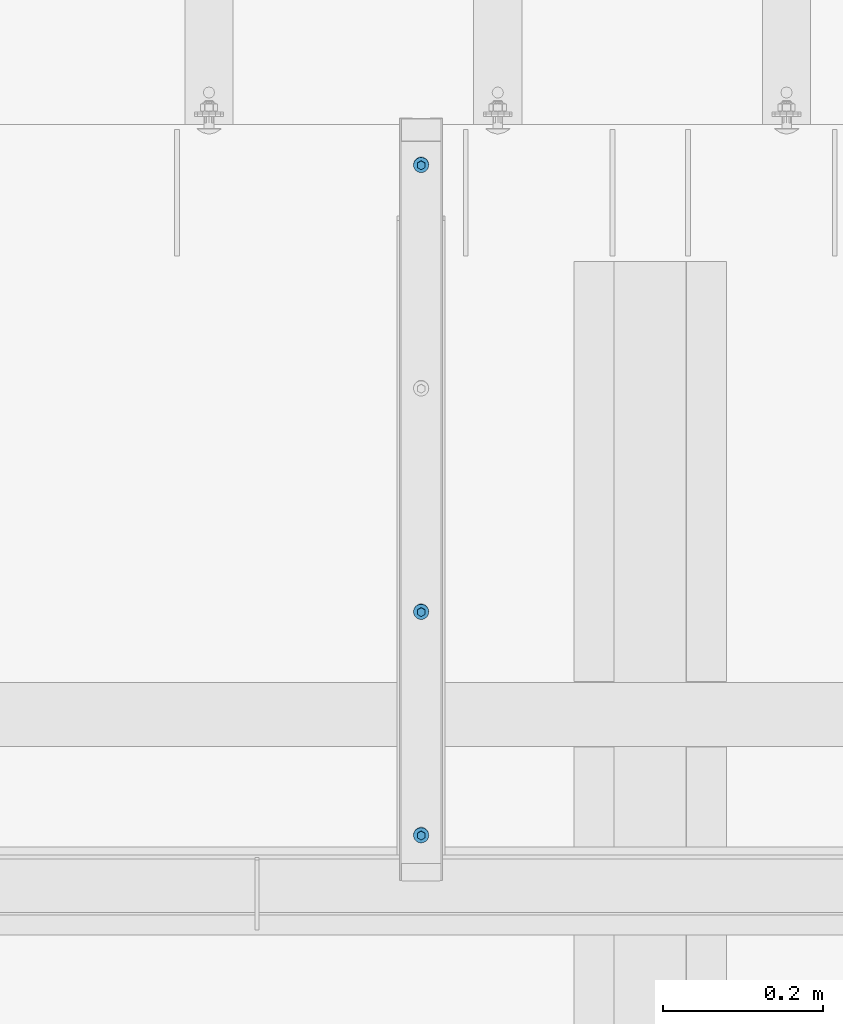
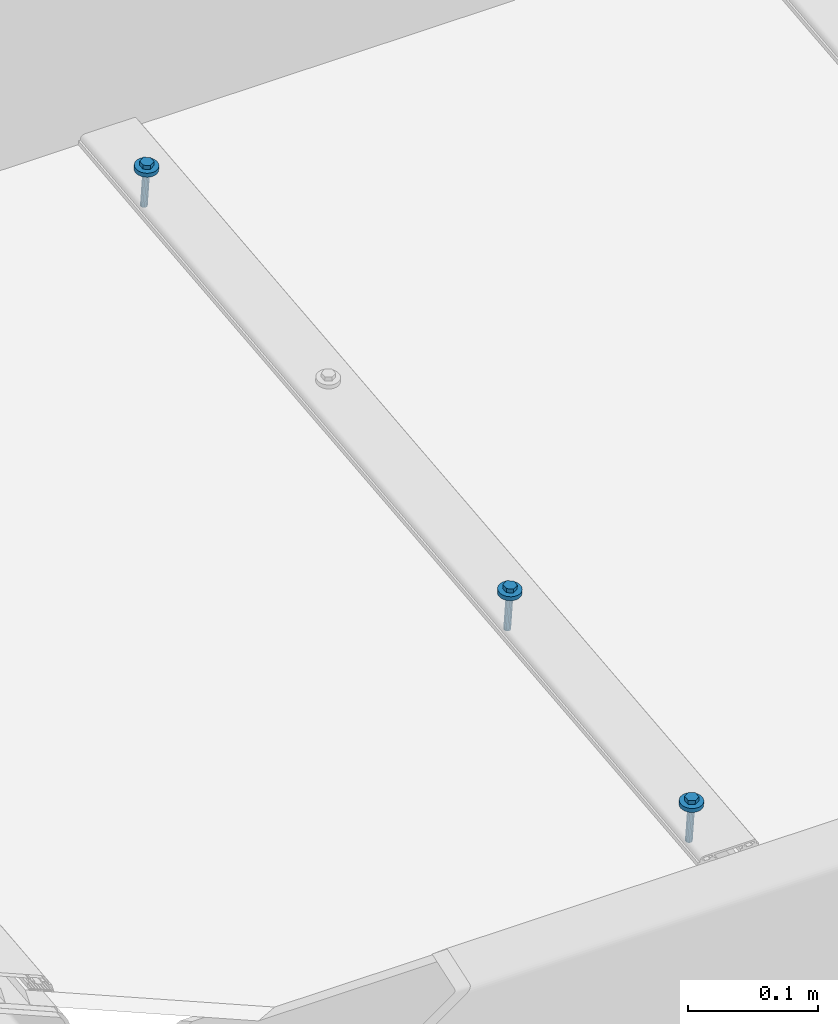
# One storey, part 59 of 116: 3 mechanical fasteners.
"""IFC2X3 building model written with IfcOpenShell, lengths in millimetres."""

from ifc_helpers import new_model, entity, si_unit, converted_unit, origin_with_axes, place, context, project, spatial, faceted_brep, element, save


model = new_model("IFC2X3")

# Units and contexts
model_context = context("Model", 3, precision=1e-09, world=origin_with_axes())
ifc_project = project(units=[si_unit("LENGTHUNIT", "METRE", prefix="MILLI"), si_unit("AREAUNIT", "SQUARE_METRE"), si_unit("VOLUMEUNIT", "CUBIC_METRE"), converted_unit("PLANEANGLEUNIT", "DEGREE", entity("IfcPlaneAngleMeasure", 0.01745329), si_unit("PLANEANGLEUNIT", "RADIAN"), dimensions=[0, 0, 0, 0, 0, 0, 0])], contexts=[model_context])

# Site, building, storey
site_placement = place(None, origin_with_axes())
site = spatial("IfcSite", under=ifc_project, at=site_placement, Name="Site", CompositionType="ELEMENT")
building_placement = place(site_placement, origin_with_axes())
building = spatial("IfcBuilding", under=site, at=building_placement, Name="Struktur 1", CompositionType="ELEMENT")
storey_placement = place(building_placement, origin_with_axes())
storey = spatial("IfcBuildingStorey", under=building, at=storey_placement, Name="Default Storey", CompositionType="ELEMENT", Elevation=0.0)

# Mechanical fasteners
mechanical_fastener_1_placement = place(None, origin_with_axes())
element("IfcMechanicalFastener", 1, at=mechanical_fastener_1_placement, inside=storey, ObjectType="-", NominalDiameter=6.0, NominalLength=40.0, context=model_context, shape_type="Brep", body=[
    faceted_brep([(56457.049134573, 11415.085912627, 2556.372412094), (56457.049134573, 11415.50402648, 2552.394324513), (56457.231674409, 11413.66082131, 2552.200595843), (56457.231674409, 11413.242707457, 2556.178683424), (56457.772279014, 11411.888449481, 2552.014312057), (56457.772279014, 11411.470335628, 2555.992399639), (56458.650173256, 11410.255022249, 2551.842631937), (56458.650173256, 11409.836908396, 2555.820719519), (56459.831620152, 11408.823311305, 2551.692153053), (56459.831620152, 11408.405197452, 2555.670240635), (56461.27121736, 11407.648336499, 2551.568658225), (56461.27121736, 11407.230222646, 2555.546745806), (56462.913641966, 11406.775251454, 2551.476893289), (56462.913641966, 11406.357137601, 2555.45498087), (56464.695776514, 11406.237608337, 2551.42038472), (56464.695776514, 11405.819494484, 2555.398472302), (56466.549134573, 11406.056068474, 2551.401304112), (56466.549134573, 11405.637954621, 2555.379391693), (56468.402492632, 11406.237608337, 2551.42038472), (56468.402492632, 11405.819494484, 2555.398472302), (56470.184627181, 11406.775251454, 2551.476893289), (56470.184627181, 11406.357137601, 2555.45498087), (56471.827051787, 11407.648336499, 2551.568658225), (56471.827051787, 11407.230222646, 2555.546745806), (56473.266648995, 11408.823311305, 2551.692153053), (56473.266648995, 11408.405197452, 2555.670240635), (56474.44809589, 11410.255022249, 2551.842631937), (56474.44809589, 11409.836908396, 2555.820719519), (56475.325990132, 11411.888449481, 2552.014312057), (56475.325990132, 11411.470335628, 2555.992399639), (56475.866594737, 11413.66082131, 2552.200595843), (56475.866594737, 11413.242707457, 2556.178683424), (56476.049134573, 11415.50402648, 2552.394324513), (56476.049134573, 11415.085912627, 2556.372412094), (56475.866594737, 11417.347231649, 2552.588053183), (56475.866594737, 11416.929117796, 2556.566140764), (56475.325990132, 11419.119603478, 2552.774336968), (56475.325990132, 11418.701489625, 2556.75242455), (56474.44809589, 11420.753030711, 2552.946017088), (56474.44809589, 11420.334916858, 2556.92410467), (56473.266648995, 11422.184741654, 2553.096495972), (56473.266648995, 11421.766627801, 2557.074583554), (56471.827051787, 11423.35971646, 2553.219990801), (56471.827051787, 11422.941602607, 2557.198078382), (56470.184627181, 11424.232801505, 2553.311755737), (56470.184627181, 11423.814687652, 2557.289843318), (56468.402492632, 11424.770444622, 2553.368264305), (56468.402492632, 11424.352330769, 2557.346351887), (56466.549134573, 11424.951984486, 2553.387344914), (56466.549134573, 11424.533870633, 2557.365432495), (56464.695776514, 11424.770444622, 2553.368264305), (56464.695776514, 11424.352330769, 2557.346351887), (56462.913641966, 11424.232801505, 2553.311755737), (56462.913641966, 11423.814687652, 2557.289843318), (56461.27121736, 11423.35971646, 2553.219990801), (56461.27121736, 11422.941602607, 2557.198078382), (56459.831620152, 11422.184741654, 2553.096495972), (56459.831620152, 11421.766627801, 2557.074583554), (56458.650173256, 11420.753030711, 2552.946017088), (56458.650173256, 11420.334916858, 2556.92410467), (56457.772279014, 11419.119603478, 2552.774336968), (56457.772279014, 11418.701489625, 2556.75242455), (56457.231674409, 11417.347231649, 2552.588053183), (56457.231674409, 11416.929117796, 2556.566140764)], [[[0, 1, 2, 3]], [[3, 2, 4, 5]], [[5, 4, 6, 7]], [[7, 6, 8, 9]], [[9, 8, 10, 11]], [[11, 10, 12, 13]], [[13, 12, 14, 15]], [[15, 14, 16, 17]], [[17, 16, 18, 19]], [[19, 18, 20, 21]], [[21, 20, 22, 23]], [[23, 22, 24, 25]], [[25, 24, 26, 27]], [[27, 26, 28, 29]], [[29, 28, 30, 31]], [[31, 30, 32, 33]], [[33, 32, 34, 35]], [[35, 34, 36, 37]], [[37, 36, 38, 39]], [[39, 38, 40, 41]], [[41, 40, 42, 43]], [[43, 42, 44, 45]], [[45, 44, 46, 47]], [[47, 46, 48, 49]], [[49, 48, 50, 51]], [[51, 50, 52, 53]], [[53, 52, 54, 55]], [[55, 54, 56, 57]], [[57, 56, 58, 59]], [[59, 58, 60, 61]], [[61, 60, 62, 63]], [[63, 62, 1, 0]], [[0, 3, 5, 7, 9, 11, 13, 15, 17, 19, 21, 23, 25, 27, 29, 31, 33, 35, 37, 39, 41, 43, 45, 47, 49, 51, 53, 55, 57, 59, 61, 63]], [[1, 62, 60, 58, 56, 54, 52, 50, 48, 46, 44, 42, 40, 38, 36, 34, 32, 30, 28, 26, 24, 22, 20, 18, 16, 14, 12, 10, 8, 6, 4, 2]]]),
    faceted_brep([(56471.333924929, 11412.338545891, 2556.083652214), (56471.333924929, 11411.920432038, 2560.061739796), (56466.549134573, 11409.173065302, 2559.772979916), (56466.549134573, 11409.591179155, 2555.794892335), (56461.764344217, 11411.920432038, 2560.061739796), (56461.764344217, 11412.338545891, 2556.083652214), (56461.764344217, 11417.415165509, 2560.639259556), (56461.764344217, 11417.833279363, 2556.661171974), (56466.549134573, 11420.162532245, 2560.928019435), (56466.549134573, 11420.580646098, 2556.949931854), (56471.333924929, 11417.415165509, 2560.639259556), (56471.333924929, 11417.833279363, 2556.661171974)], [[[0, 1, 2, 3]], [[3, 2, 4, 5]], [[5, 4, 6, 7]], [[7, 6, 8, 9]], [[9, 8, 10, 11]], [[11, 10, 1, 0]], [[4, 2, 1, 10, 8, 6]], [[0, 3, 5, 7, 9, 11]]]),
    faceted_brep([(56463.549134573, 11415.50402648, 2552.394324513), (56463.549134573, 11418.848937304, 2520.569623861), (56463.777495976, 11417.707176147, 2520.449619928), (56463.777495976, 11414.362265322, 2552.274320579), (56464.42781423, 11416.739237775, 2520.347885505), (56464.42781423, 11413.394326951, 2552.172586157), (56465.401084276, 11416.092482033, 2520.279908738), (56465.401084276, 11412.747571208, 2552.104609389), (56466.549134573, 11415.865371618, 2520.256038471), (56466.549134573, 11412.520460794, 2552.080739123), (56467.69718487, 11416.092482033, 2520.279908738), (56467.69718487, 11412.747571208, 2552.104609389), (56468.670454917, 11416.739237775, 2520.347885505), (56468.670454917, 11413.394326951, 2552.172586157), (56469.320773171, 11417.707176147, 2520.449619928), (56469.320773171, 11414.362265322, 2552.274320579), (56469.549134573, 11418.848937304, 2520.569623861), (56469.549134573, 11415.50402648, 2552.394324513), (56469.320773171, 11419.990698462, 2520.689627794), (56469.320773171, 11416.645787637, 2552.514328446), (56468.670454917, 11420.958636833, 2520.791362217), (56468.670454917, 11417.613726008, 2552.616062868), (56467.69718487, 11421.605392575, 2520.859338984), (56467.69718487, 11418.260481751, 2552.684039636), (56466.549134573, 11421.83250299, 2520.883209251), (56466.549134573, 11418.487592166, 2552.707909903), (56465.401084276, 11421.605392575, 2520.859338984), (56465.401084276, 11418.260481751, 2552.684039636), (56464.42781423, 11420.958636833, 2520.791362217), (56464.42781423, 11417.613726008, 2552.616062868), (56463.777495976, 11419.990698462, 2520.689627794), (56463.777495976, 11416.645787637, 2552.514328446)], [[[0, 1, 2, 3]], [[3, 2, 4, 5]], [[5, 4, 6, 7]], [[7, 6, 8, 9]], [[9, 8, 10, 11]], [[11, 10, 12, 13]], [[13, 12, 14, 15]], [[15, 14, 16, 17]], [[17, 16, 18, 19]], [[19, 18, 20, 21]], [[21, 20, 22, 23]], [[23, 22, 24, 25]], [[25, 24, 26, 27]], [[27, 26, 28, 29]], [[29, 28, 30, 31]], [[31, 30, 1, 0]], [[0, 3, 5, 7, 9, 11, 13, 15, 17, 19, 21, 23, 25, 27, 29, 31]], [[1, 30, 28, 26, 24, 22, 20, 18, 16, 14, 12, 10, 8, 6, 4, 2]]]),
    faceted_brep([(56463.549134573, 11418.848937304, 2520.569623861), (56463.549134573, 11419.267051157, 2516.59153628), (56463.777495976, 11418.12529, 2516.471532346), (56463.777495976, 11417.707176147, 2520.449619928), (56464.42781423, 11417.157351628, 2516.369797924), (56464.42781423, 11416.739237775, 2520.347885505), (56465.401084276, 11416.510595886, 2516.301821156), (56465.401084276, 11416.092482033, 2520.279908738), (56466.549134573, 11416.283485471, 2516.27795089), (56466.549134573, 11415.865371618, 2520.256038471), (56467.69718487, 11416.510595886, 2516.301821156), (56467.69718487, 11416.092482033, 2520.279908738), (56468.670454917, 11417.157351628, 2516.369797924), (56468.670454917, 11416.739237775, 2520.347885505), (56469.320773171, 11418.12529, 2516.471532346), (56469.320773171, 11417.707176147, 2520.449619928), (56469.549134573, 11419.267051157, 2516.59153628), (56469.549134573, 11418.848937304, 2520.569623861), (56469.320773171, 11420.408812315, 2516.711540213), (56469.320773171, 11419.990698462, 2520.689627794), (56468.670454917, 11421.376750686, 2516.813274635), (56468.670454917, 11420.958636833, 2520.791362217), (56467.69718487, 11422.023506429, 2516.881251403), (56467.69718487, 11421.605392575, 2520.859338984), (56466.549134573, 11422.250616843, 2516.905121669), (56466.549134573, 11421.83250299, 2520.883209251), (56465.401084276, 11422.023506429, 2516.881251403), (56465.401084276, 11421.605392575, 2520.859338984), (56464.42781423, 11421.376750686, 2516.813274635), (56464.42781423, 11420.958636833, 2520.791362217), (56463.777495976, 11420.408812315, 2516.711540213), (56463.777495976, 11419.990698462, 2520.689627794)], [[[0, 1, 2, 3]], [[3, 2, 4, 5]], [[5, 4, 6, 7]], [[7, 6, 8, 9]], [[9, 8, 10, 11]], [[11, 10, 12, 13]], [[13, 12, 14, 15]], [[15, 14, 16, 17]], [[17, 16, 18, 19]], [[19, 18, 20, 21]], [[21, 20, 22, 23]], [[23, 22, 24, 25]], [[25, 24, 26, 27]], [[27, 26, 28, 29]], [[29, 28, 30, 31]], [[31, 30, 1, 0]], [[0, 3, 5, 7, 9, 11, 13, 15, 17, 19, 21, 23, 25, 27, 29, 31]], [[1, 30, 28, 26, 24, 22, 20, 18, 16, 14, 12, 10, 8, 6, 4, 2]]]),
])
mechanical_fastener_2_placement = place(None, origin_with_axes())
element("IfcMechanicalFastener", 2, at=mechanical_fastener_2_placement, inside=storey, ObjectType="-", NominalDiameter=6.0, NominalLength=40.0, context=model_context, shape_type="Brep", body=[
    faceted_brep([(56457.049134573, 11136.619781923, 2527.104442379), (56457.049134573, 11137.037895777, 2523.126354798), (56457.231674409, 11135.194690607, 2522.932626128), (56457.231674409, 11134.776576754, 2526.91071371), (56457.772279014, 11133.422318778, 2522.746342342), (56457.772279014, 11133.004204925, 2526.724429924), (56458.650173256, 11131.788891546, 2522.574662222), (56458.650173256, 11131.370777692, 2526.552749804), (56459.831620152, 11130.357180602, 2522.424183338), (56459.831620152, 11129.939066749, 2526.40227092), (56461.271217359, 11129.182205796, 2522.30068851), (56461.271217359, 11128.764091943, 2526.278776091), (56462.913641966, 11128.309120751, 2522.208923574), (56462.913641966, 11127.891006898, 2526.187011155), (56464.695776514, 11127.771477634, 2522.152415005), (56464.695776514, 11127.353363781, 2526.130502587), (56466.549134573, 11127.589937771, 2522.133334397), (56466.549134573, 11127.171823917, 2526.111421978), (56468.402492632, 11127.771477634, 2522.152415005), (56468.402492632, 11127.353363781, 2526.130502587), (56470.184627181, 11128.309120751, 2522.208923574), (56470.184627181, 11127.891006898, 2526.187011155), (56471.827051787, 11129.182205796, 2522.30068851), (56471.827051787, 11128.764091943, 2526.278776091), (56473.266648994, 11130.357180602, 2522.424183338), (56473.266648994, 11129.939066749, 2526.40227092), (56474.44809589, 11131.788891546, 2522.574662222), (56474.44809589, 11131.370777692, 2526.552749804), (56475.325990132, 11133.422318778, 2522.746342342), (56475.325990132, 11133.004204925, 2526.724429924), (56475.866594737, 11135.194690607, 2522.932626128), (56475.866594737, 11134.776576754, 2526.91071371), (56476.049134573, 11137.037895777, 2523.126354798), (56476.049134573, 11136.619781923, 2527.104442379), (56475.866594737, 11138.881100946, 2523.320083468), (56475.866594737, 11138.462987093, 2527.298171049), (56475.325990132, 11140.653472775, 2523.506367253), (56475.325990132, 11140.235358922, 2527.484454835), (56474.44809589, 11142.286900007, 2523.678047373), (56474.44809589, 11141.868786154, 2527.656134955), (56473.266648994, 11143.718610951, 2523.828526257), (56473.266648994, 11143.300497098, 2527.806613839), (56471.827051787, 11144.893585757, 2523.952021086), (56471.827051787, 11144.475471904, 2527.930108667), (56470.184627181, 11145.766670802, 2524.043786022), (56470.184627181, 11145.348556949, 2528.021873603), (56468.402492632, 11146.304313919, 2524.10029459), (56468.402492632, 11145.886200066, 2528.078382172), (56466.549134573, 11146.485853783, 2524.119375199), (56466.549134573, 11146.067739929, 2528.09746278), (56464.695776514, 11146.304313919, 2524.10029459), (56464.695776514, 11145.886200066, 2528.078382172), (56462.913641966, 11145.766670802, 2524.043786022), (56462.913641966, 11145.348556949, 2528.021873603), (56461.271217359, 11144.893585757, 2523.952021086), (56461.271217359, 11144.475471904, 2527.930108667), (56459.831620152, 11143.718610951, 2523.828526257), (56459.831620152, 11143.300497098, 2527.806613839), (56458.650173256, 11142.286900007, 2523.678047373), (56458.650173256, 11141.868786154, 2527.656134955), (56457.772279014, 11140.653472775, 2523.506367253), (56457.772279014, 11140.235358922, 2527.484454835), (56457.231674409, 11138.881100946, 2523.320083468), (56457.231674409, 11138.462987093, 2527.298171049)], [[[0, 1, 2, 3]], [[3, 2, 4, 5]], [[5, 4, 6, 7]], [[7, 6, 8, 9]], [[9, 8, 10, 11]], [[11, 10, 12, 13]], [[13, 12, 14, 15]], [[15, 14, 16, 17]], [[17, 16, 18, 19]], [[19, 18, 20, 21]], [[21, 20, 22, 23]], [[23, 22, 24, 25]], [[25, 24, 26, 27]], [[27, 26, 28, 29]], [[29, 28, 30, 31]], [[31, 30, 32, 33]], [[33, 32, 34, 35]], [[35, 34, 36, 37]], [[37, 36, 38, 39]], [[39, 38, 40, 41]], [[41, 40, 42, 43]], [[43, 42, 44, 45]], [[45, 44, 46, 47]], [[47, 46, 48, 49]], [[49, 48, 50, 51]], [[51, 50, 52, 53]], [[53, 52, 54, 55]], [[55, 54, 56, 57]], [[57, 56, 58, 59]], [[59, 58, 60, 61]], [[61, 60, 62, 63]], [[63, 62, 1, 0]], [[0, 3, 5, 7, 9, 11, 13, 15, 17, 19, 21, 23, 25, 27, 29, 31, 33, 35, 37, 39, 41, 43, 45, 47, 49, 51, 53, 55, 57, 59, 61, 63]], [[1, 62, 60, 58, 56, 54, 52, 50, 48, 46, 44, 42, 40, 38, 36, 34, 32, 30, 28, 26, 24, 22, 20, 18, 16, 14, 12, 10, 8, 6, 4, 2]]]),
    faceted_brep([(56471.333924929, 11133.872415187, 2526.8156825), (56471.333924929, 11133.454301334, 2530.793770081), (56466.549134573, 11130.706934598, 2530.505010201), (56466.549134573, 11131.125048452, 2526.52692262), (56461.764344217, 11133.454301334, 2530.793770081), (56461.764344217, 11133.872415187, 2526.8156825), (56461.764344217, 11138.949034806, 2531.371289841), (56461.764344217, 11139.367148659, 2527.393202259), (56466.549134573, 11141.696401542, 2531.66004972), (56466.549134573, 11142.114515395, 2527.681962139), (56471.333924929, 11138.949034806, 2531.371289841), (56471.333924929, 11139.367148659, 2527.393202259)], [[[0, 1, 2, 3]], [[3, 2, 4, 5]], [[5, 4, 6, 7]], [[7, 6, 8, 9]], [[9, 8, 10, 11]], [[11, 10, 1, 0]], [[4, 2, 1, 10, 8, 6]], [[0, 3, 5, 7, 9, 11]]]),
    faceted_brep([(56463.549134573, 11137.037895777, 2523.126354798), (56463.549134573, 11140.382806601, 2491.301654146), (56463.777495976, 11139.241045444, 2491.181650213), (56463.777495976, 11135.896134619, 2523.006350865), (56464.42781423, 11138.273107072, 2491.07991579), (56464.42781423, 11134.928196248, 2522.904616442), (56465.401084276, 11137.62635133, 2491.011939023), (56465.401084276, 11134.281440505, 2522.836639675), (56466.549134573, 11137.399240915, 2490.988068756), (56466.549134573, 11134.05433009, 2522.812769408), (56467.69718487, 11137.62635133, 2491.011939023), (56467.69718487, 11134.281440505, 2522.836639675), (56468.670454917, 11138.273107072, 2491.07991579), (56468.670454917, 11134.928196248, 2522.904616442), (56469.320773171, 11139.241045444, 2491.181650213), (56469.320773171, 11135.896134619, 2523.006350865), (56469.549134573, 11140.382806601, 2491.301654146), (56469.549134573, 11137.037895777, 2523.126354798), (56469.320773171, 11141.524567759, 2491.421658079), (56469.320773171, 11138.179656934, 2523.246358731), (56468.670454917, 11142.49250613, 2491.523392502), (56468.670454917, 11139.147595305, 2523.348093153), (56467.69718487, 11143.139261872, 2491.591369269), (56467.69718487, 11139.794351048, 2523.416069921), (56466.549134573, 11143.366372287, 2491.615239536), (56466.549134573, 11140.021461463, 2523.439940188), (56465.401084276, 11143.139261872, 2491.591369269), (56465.401084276, 11139.794351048, 2523.416069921), (56464.42781423, 11142.49250613, 2491.523392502), (56464.42781423, 11139.147595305, 2523.348093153), (56463.777495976, 11141.524567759, 2491.421658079), (56463.777495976, 11138.179656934, 2523.246358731)], [[[0, 1, 2, 3]], [[3, 2, 4, 5]], [[5, 4, 6, 7]], [[7, 6, 8, 9]], [[9, 8, 10, 11]], [[11, 10, 12, 13]], [[13, 12, 14, 15]], [[15, 14, 16, 17]], [[17, 16, 18, 19]], [[19, 18, 20, 21]], [[21, 20, 22, 23]], [[23, 22, 24, 25]], [[25, 24, 26, 27]], [[27, 26, 28, 29]], [[29, 28, 30, 31]], [[31, 30, 1, 0]], [[0, 3, 5, 7, 9, 11, 13, 15, 17, 19, 21, 23, 25, 27, 29, 31]], [[1, 30, 28, 26, 24, 22, 20, 18, 16, 14, 12, 10, 8, 6, 4, 2]]]),
    faceted_brep([(56463.549134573, 11140.382806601, 2491.301654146), (56463.549134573, 11140.800920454, 2487.323566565), (56463.777495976, 11139.659159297, 2487.203562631), (56463.777495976, 11139.241045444, 2491.181650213), (56464.42781423, 11138.691220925, 2487.101828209), (56464.42781423, 11138.273107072, 2491.07991579), (56465.401084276, 11138.044465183, 2487.033851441), (56465.401084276, 11137.62635133, 2491.011939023), (56466.549134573, 11137.817354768, 2487.009981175), (56466.549134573, 11137.399240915, 2490.988068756), (56467.69718487, 11138.044465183, 2487.033851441), (56467.69718487, 11137.62635133, 2491.011939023), (56468.670454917, 11138.691220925, 2487.101828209), (56468.670454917, 11138.273107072, 2491.07991579), (56469.320773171, 11139.659159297, 2487.203562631), (56469.320773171, 11139.241045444, 2491.181650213), (56469.549134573, 11140.800920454, 2487.323566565), (56469.549134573, 11140.382806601, 2491.301654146), (56469.320773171, 11141.942681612, 2487.443570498), (56469.320773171, 11141.524567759, 2491.421658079), (56468.670454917, 11142.910619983, 2487.54530492), (56468.670454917, 11142.49250613, 2491.523392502), (56467.69718487, 11143.557375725, 2487.613281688), (56467.69718487, 11143.139261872, 2491.591369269), (56466.549134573, 11143.78448614, 2487.637151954), (56466.549134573, 11143.366372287, 2491.615239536), (56465.401084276, 11143.557375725, 2487.613281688), (56465.401084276, 11143.139261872, 2491.591369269), (56464.42781423, 11142.910619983, 2487.54530492), (56464.42781423, 11142.49250613, 2491.523392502), (56463.777495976, 11141.942681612, 2487.443570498), (56463.777495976, 11141.524567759, 2491.421658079)], [[[0, 1, 2, 3]], [[3, 2, 4, 5]], [[5, 4, 6, 7]], [[7, 6, 8, 9]], [[9, 8, 10, 11]], [[11, 10, 12, 13]], [[13, 12, 14, 15]], [[15, 14, 16, 17]], [[17, 16, 18, 19]], [[19, 18, 20, 21]], [[21, 20, 22, 23]], [[23, 22, 24, 25]], [[25, 24, 26, 27]], [[27, 26, 28, 29]], [[29, 28, 30, 31]], [[31, 30, 1, 0]], [[0, 3, 5, 7, 9, 11, 13, 15, 17, 19, 21, 23, 25, 27, 29, 31]], [[1, 30, 28, 26, 24, 22, 20, 18, 16, 14, 12, 10, 8, 6, 4, 2]]]),
])
mechanical_fastener_3_placement = place(None, origin_with_axes())
element("IfcMechanicalFastener", 3, at=mechanical_fastener_3_placement, inside=storey, ObjectType="-", NominalDiameter=6.0, NominalLength=40.0, context=model_context, shape_type="Brep", body=[
    faceted_brep([(56457.049134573, 11972.018174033, 2614.908351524), (56457.049134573, 11972.436287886, 2610.930263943), (56457.231674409, 11970.593082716, 2610.736535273), (56457.231674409, 11970.174968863, 2614.714622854), (56457.772279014, 11968.820710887, 2610.550251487), (56457.772279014, 11968.402597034, 2614.528339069), (56458.650173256, 11967.187283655, 2610.378571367), (56458.650173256, 11966.769169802, 2614.356658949), (56459.831620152, 11965.755572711, 2610.228092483), (56459.831620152, 11965.337458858, 2614.206180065), (56461.27121736, 11964.580597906, 2610.104597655), (56461.27121736, 11964.162484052, 2614.082685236), (56462.913641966, 11963.70751286, 2610.012832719), (56462.913641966, 11963.289399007, 2613.9909203), (56464.695776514, 11963.169869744, 2609.95632415), (56464.695776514, 11962.751755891, 2613.934411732), (56466.549134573, 11962.98832988, 2609.937243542), (56466.549134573, 11962.570216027, 2613.915331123), (56468.402492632, 11963.169869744, 2609.95632415), (56468.402492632, 11962.751755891, 2613.934411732), (56470.184627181, 11963.70751286, 2610.012832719), (56470.184627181, 11963.289399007, 2613.9909203), (56471.827051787, 11964.580597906, 2610.104597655), (56471.827051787, 11964.162484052, 2614.082685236), (56473.266648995, 11965.755572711, 2610.228092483), (56473.266648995, 11965.337458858, 2614.206180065), (56474.44809589, 11967.187283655, 2610.378571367), (56474.44809589, 11966.769169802, 2614.356658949), (56475.325990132, 11968.820710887, 2610.550251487), (56475.325990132, 11968.402597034, 2614.528339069), (56475.866594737, 11970.593082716, 2610.736535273), (56475.866594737, 11970.174968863, 2614.714622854), (56476.049134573, 11972.436287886, 2610.930263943), (56476.049134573, 11972.018174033, 2614.908351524), (56475.866594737, 11974.279493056, 2611.123992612), (56475.866594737, 11973.861379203, 2615.102080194), (56475.325990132, 11976.051864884, 2611.310276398), (56475.325990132, 11975.633751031, 2615.28836398), (56474.44809589, 11977.685292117, 2611.481956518), (56474.44809589, 11977.267178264, 2615.4600441), (56473.266648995, 11979.11700306, 2611.632435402), (56473.266648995, 11978.698889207, 2615.610522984), (56471.827051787, 11980.291977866, 2611.755930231), (56471.827051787, 11979.873864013, 2615.734017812), (56470.184627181, 11981.165062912, 2611.847695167), (56470.184627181, 11980.746949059, 2615.825782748), (56468.402492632, 11981.702706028, 2611.904203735), (56468.402492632, 11981.284592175, 2615.882291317), (56466.549134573, 11981.884245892, 2611.923284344), (56466.549134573, 11981.466132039, 2615.901371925), (56464.695776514, 11981.702706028, 2611.904203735), (56464.695776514, 11981.284592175, 2615.882291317), (56462.913641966, 11981.165062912, 2611.847695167), (56462.913641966, 11980.746949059, 2615.825782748), (56461.27121736, 11980.291977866, 2611.755930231), (56461.27121736, 11979.873864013, 2615.734017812), (56459.831620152, 11979.11700306, 2611.632435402), (56459.831620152, 11978.698889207, 2615.610522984), (56458.650173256, 11977.685292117, 2611.481956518), (56458.650173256, 11977.267178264, 2615.4600441), (56457.772279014, 11976.051864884, 2611.310276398), (56457.772279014, 11975.633751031, 2615.28836398), (56457.231674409, 11974.279493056, 2611.123992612), (56457.231674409, 11973.861379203, 2615.102080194)], [[[0, 1, 2, 3]], [[3, 2, 4, 5]], [[5, 4, 6, 7]], [[7, 6, 8, 9]], [[9, 8, 10, 11]], [[11, 10, 12, 13]], [[13, 12, 14, 15]], [[15, 14, 16, 17]], [[17, 16, 18, 19]], [[19, 18, 20, 21]], [[21, 20, 22, 23]], [[23, 22, 24, 25]], [[25, 24, 26, 27]], [[27, 26, 28, 29]], [[29, 28, 30, 31]], [[31, 30, 32, 33]], [[33, 32, 34, 35]], [[35, 34, 36, 37]], [[37, 36, 38, 39]], [[39, 38, 40, 41]], [[41, 40, 42, 43]], [[43, 42, 44, 45]], [[45, 44, 46, 47]], [[47, 46, 48, 49]], [[49, 48, 50, 51]], [[51, 50, 52, 53]], [[53, 52, 54, 55]], [[55, 54, 56, 57]], [[57, 56, 58, 59]], [[59, 58, 60, 61]], [[61, 60, 62, 63]], [[63, 62, 1, 0]], [[0, 3, 5, 7, 9, 11, 13, 15, 17, 19, 21, 23, 25, 27, 29, 31, 33, 35, 37, 39, 41, 43, 45, 47, 49, 51, 53, 55, 57, 59, 61, 63]], [[1, 62, 60, 58, 56, 54, 52, 50, 48, 46, 44, 42, 40, 38, 36, 34, 32, 30, 28, 26, 24, 22, 20, 18, 16, 14, 12, 10, 8, 6, 4, 2]]]),
    faceted_brep([(56471.333924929, 11969.270807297, 2614.619591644), (56471.333924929, 11968.852693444, 2618.597679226), (56466.549134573, 11966.105326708, 2618.308919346), (56466.549134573, 11966.523440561, 2614.330831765), (56461.764344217, 11968.852693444, 2618.597679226), (56461.764344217, 11969.270807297, 2614.619591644), (56461.764344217, 11974.347426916, 2619.175198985), (56461.764344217, 11974.765540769, 2615.197111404), (56466.549134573, 11977.094793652, 2619.463958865), (56466.549134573, 11977.512907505, 2615.485871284), (56471.333924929, 11974.347426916, 2619.175198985), (56471.333924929, 11974.765540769, 2615.197111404)], [[[0, 1, 2, 3]], [[3, 2, 4, 5]], [[5, 4, 6, 7]], [[7, 6, 8, 9]], [[9, 8, 10, 11]], [[11, 10, 1, 0]], [[4, 2, 1, 10, 8, 6]], [[0, 3, 5, 7, 9, 11]]]),
    faceted_brep([(56463.549134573, 11972.436287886, 2610.930263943), (56463.549134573, 11975.78119871, 2579.105563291), (56463.777495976, 11974.639437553, 2578.985559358), (56463.777495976, 11971.294526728, 2610.810260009), (56464.42781423, 11973.671499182, 2578.883824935), (56464.42781423, 11970.326588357, 2610.708525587), (56465.401084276, 11973.024743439, 2578.815848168), (56465.401084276, 11969.679832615, 2610.640548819), (56466.549134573, 11972.797633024, 2578.791977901), (56466.549134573, 11969.4527222, 2610.616678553), (56467.69718487, 11973.024743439, 2578.815848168), (56467.69718487, 11969.679832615, 2610.640548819), (56468.670454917, 11973.671499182, 2578.883824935), (56468.670454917, 11970.326588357, 2610.708525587), (56469.320773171, 11974.639437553, 2578.985559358), (56469.320773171, 11971.294526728, 2610.810260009), (56469.549134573, 11975.78119871, 2579.105563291), (56469.549134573, 11972.436287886, 2610.930263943), (56469.320773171, 11976.922959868, 2579.225567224), (56469.320773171, 11973.578049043, 2611.050267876), (56468.670454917, 11977.890898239, 2579.327301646), (56468.670454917, 11974.545987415, 2611.152002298), (56467.69718487, 11978.537653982, 2579.395278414), (56467.69718487, 11975.192743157, 2611.219979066), (56466.549134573, 11978.764764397, 2579.419148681), (56466.549134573, 11975.419853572, 2611.243849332), (56465.401084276, 11978.537653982, 2579.395278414), (56465.401084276, 11975.192743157, 2611.219979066), (56464.42781423, 11977.890898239, 2579.327301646), (56464.42781423, 11974.545987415, 2611.152002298), (56463.777495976, 11976.922959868, 2579.225567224), (56463.777495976, 11973.578049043, 2611.050267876)], [[[0, 1, 2, 3]], [[3, 2, 4, 5]], [[5, 4, 6, 7]], [[7, 6, 8, 9]], [[9, 8, 10, 11]], [[11, 10, 12, 13]], [[13, 12, 14, 15]], [[15, 14, 16, 17]], [[17, 16, 18, 19]], [[19, 18, 20, 21]], [[21, 20, 22, 23]], [[23, 22, 24, 25]], [[25, 24, 26, 27]], [[27, 26, 28, 29]], [[29, 28, 30, 31]], [[31, 30, 1, 0]], [[0, 3, 5, 7, 9, 11, 13, 15, 17, 19, 21, 23, 25, 27, 29, 31]], [[1, 30, 28, 26, 24, 22, 20, 18, 16, 14, 12, 10, 8, 6, 4, 2]]]),
    faceted_brep([(56463.549134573, 11975.78119871, 2579.105563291), (56463.549134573, 11976.199312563, 2575.127475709), (56463.777495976, 11975.057551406, 2575.007471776), (56463.777495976, 11974.639437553, 2578.985559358), (56464.42781423, 11974.089613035, 2574.905737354), (56464.42781423, 11973.671499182, 2578.883824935), (56465.401084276, 11973.442857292, 2574.837760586), (56465.401084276, 11973.024743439, 2578.815848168), (56466.549134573, 11973.215746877, 2574.81389032), (56466.549134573, 11972.797633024, 2578.791977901), (56467.69718487, 11973.442857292, 2574.837760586), (56467.69718487, 11973.024743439, 2578.815848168), (56468.670454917, 11974.089613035, 2574.905737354), (56468.670454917, 11973.671499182, 2578.883824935), (56469.320773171, 11975.057551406, 2575.007471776), (56469.320773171, 11974.639437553, 2578.985559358), (56469.549134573, 11976.199312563, 2575.127475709), (56469.549134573, 11975.78119871, 2579.105563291), (56469.320773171, 11977.341073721, 2575.247479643), (56469.320773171, 11976.922959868, 2579.225567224), (56468.670454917, 11978.309012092, 2575.349214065), (56468.670454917, 11977.890898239, 2579.327301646), (56467.69718487, 11978.955767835, 2575.417190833), (56467.69718487, 11978.537653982, 2579.395278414), (56466.549134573, 11979.18287825, 2575.441061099), (56466.549134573, 11978.764764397, 2579.419148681), (56465.401084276, 11978.955767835, 2575.417190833), (56465.401084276, 11978.537653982, 2579.395278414), (56464.42781423, 11978.309012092, 2575.349214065), (56464.42781423, 11977.890898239, 2579.327301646), (56463.777495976, 11977.341073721, 2575.247479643), (56463.777495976, 11976.922959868, 2579.225567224)], [[[0, 1, 2, 3]], [[3, 2, 4, 5]], [[5, 4, 6, 7]], [[7, 6, 8, 9]], [[9, 8, 10, 11]], [[11, 10, 12, 13]], [[13, 12, 14, 15]], [[15, 14, 16, 17]], [[17, 16, 18, 19]], [[19, 18, 20, 21]], [[21, 20, 22, 23]], [[23, 22, 24, 25]], [[25, 24, 26, 27]], [[27, 26, 28, 29]], [[29, 28, 30, 31]], [[31, 30, 1, 0]], [[0, 3, 5, 7, 9, 11, 13, 15, 17, 19, 21, 23, 25, 27, 29, 31]], [[1, 30, 28, 26, 24, 22, 20, 18, 16, 14, 12, 10, 8, 6, 4, 2]]]),
])

save(model, "model.ifc")
